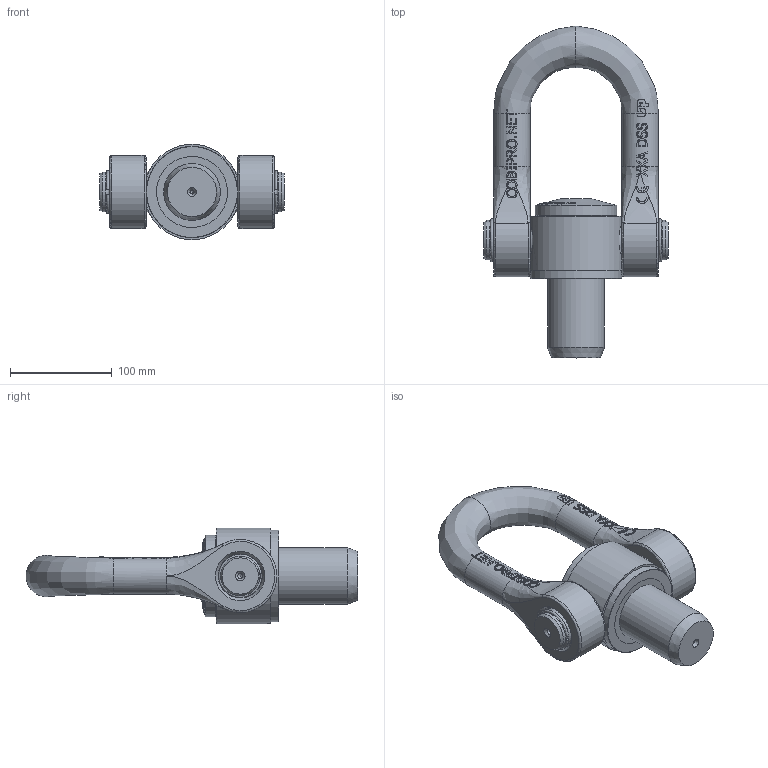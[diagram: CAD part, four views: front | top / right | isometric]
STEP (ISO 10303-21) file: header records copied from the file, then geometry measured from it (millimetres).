
FILE_DESCRIPTION(/* description */ (''),/* implementation_level */ '2;1');
FILE_NAME(/* name */ 'W:\CODIPRO\DOCUMENTS\Plans A NE PAS DIFFUSER !!!\Fichier STEP Modelisé\Gamme UP\Produits UP\DSS UP\DSS M56 UP.stp',/* time_stamp */ '2017-09-20T08:50:45+02:00',/* author */ ('rklenes'),/* organization */ (''),/* preprocessor_version */ 'ST-DEVELOPER v16.5',/* originating_system */ 'Autodesk Inventor 2017',/* authorisation */ '');
FILE_SCHEMA (('AUTOMOTIVE_DESIGN { 1 0 10303 214 3 1 1 }'));
Length unit declared in the file: millimetre
Products named in the file (7): DSS M56 UP; DSS_N4BISX64; DSM_N4X64; DSM_N4; DIN 7993 - A 40; DSA_M56X140_UP; DSE_M56A
Assembly tree (7 placements, depth 3):
  DSS M56 UP
    DSS_N4BISX64
      DSM_N4X64
      DSM_N4
      DIN 7993 - A 40  x2
    DSA_M56X140_UP
    DSE_M56A
Bounding box: 182 x 327 x 93.66 mm (x, y, z)
Volume: 1422569.5 mm3; surface area: 193892.2 mm2
Topology: 6 solids, 6 shells, 855 faces, 2343 edges, 1551 vertices
Faces by surface type: plane 369, bspline 322, cylinder 81, cone 66, torus 17
Full cylindrical faces by diameter (mm): 4 x1, 4.917 x2, 36 x2, 39 x4, 40.2 x2, 56 x4, 56.2 x1, 63.7 x2, 64 x3, 80 x1, 90 x1
Entity records: 33531 total; most frequent: CARTESIAN_POINT 14122, ORIENTED_EDGE 4528, DIRECTION 3013, EDGE_CURVE 2264, VERTEX_POINT 1535, AXIS2_PLACEMENT_3D 1041, EDGE_LOOP 973, LINE 931
